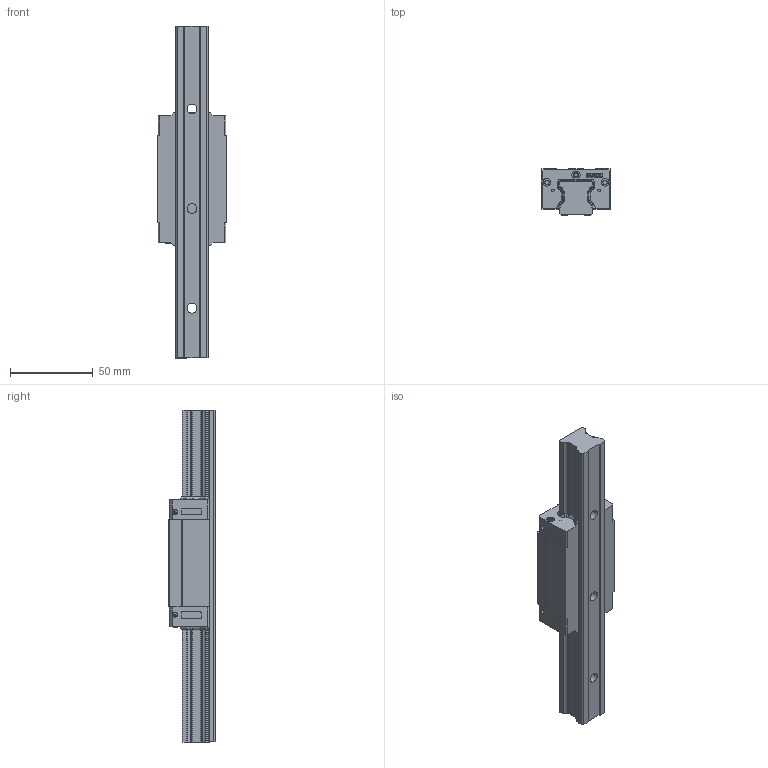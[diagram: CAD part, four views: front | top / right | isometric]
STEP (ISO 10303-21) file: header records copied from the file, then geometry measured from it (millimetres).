
FILE_DESCRIPTION(/* description */ (''),/* implementation_level */ '2;1');
FILE_NAME(/* name */ 'SGS20B.stp',/* time_stamp */ '2021-05-27T16:22:27+08:00',/* author */ (''),/* organization */ (''),/* preprocessor_version */ 'ST-DEVELOPER v15',/* originating_system */ 'SIEMENS PLM Software NX 8.5',/* authorisation */ '');
FILE_SCHEMA (('CONFIG_CONTROL_DESIGN'));
Length unit declared in the file: millimetre
Products named in the file (1): SGS20B
Bounding box: 42 x 28 x 200 mm (x, y, z)
Volume: 118972.7 mm3; surface area: 34755.4 mm2
Topology: 2 solids, 10 shells, 536 faces, 1414 edges, 949 vertices
Faces by surface type: plane 215, extrusion 160, cylinder 98, cone 47, bspline 16
Full cylindrical faces by diameter (mm): 0.7 x4, 1.6 x4, 2 x2, 2.5 x6, 2.6 x4, 3.2 x2, 4.2 x4, 4.7 x4, 5 x2, 6 x3, 9.5 x3
Entity records: 18880 total; most frequent: CARTESIAN_POINT 6463, ORIENTED_EDGE 2670, DIRECTION 2084, EDGE_CURVE 1335, VERTEX_POINT 923, VECTOR 804, EDGE_LOOP 646, LINE 644
